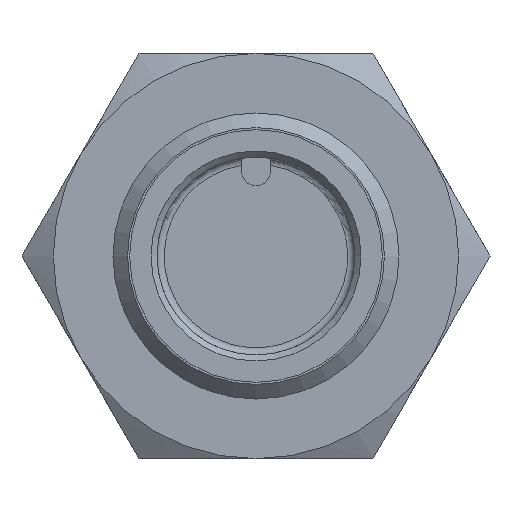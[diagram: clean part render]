
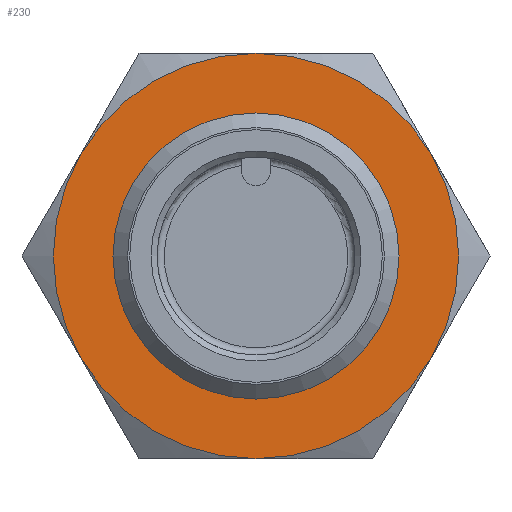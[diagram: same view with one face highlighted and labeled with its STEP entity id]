
A CAD part, left-side view. The second image highlights one B-rep face of the part: STEP entity #230.
In plain terms, the highlighted planar face has unit normal (-1, 0, 0).
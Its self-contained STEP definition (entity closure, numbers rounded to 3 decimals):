
#230 = ADVANCED_FACE( '', ( #386, #387 ), #388, .F. );
#386 = FACE_OUTER_BOUND( '', #559, .T. );
#387 = FACE_BOUND( '', #560, .T. );
#388 = PLANE( '', #561 );
#559 = EDGE_LOOP( '', ( #890, #891, #892, #893, #894, #895 ) );
#560 = EDGE_LOOP( '', ( #896 ) );
#561 = AXIS2_PLACEMENT_3D( '', #897, #898, #899 );
#890 = ORIENTED_EDGE( '', *, *, #1073, .F. );
#891 = ORIENTED_EDGE( '', *, *, #1074, .F. );
#892 = ORIENTED_EDGE( '', *, *, #1075, .F. );
#893 = ORIENTED_EDGE( '', *, *, #1071, .F. );
#894 = ORIENTED_EDGE( '', *, *, #1069, .F. );
#895 = ORIENTED_EDGE( '', *, *, #1070, .F. );
#896 = ORIENTED_EDGE( '', *, *, #1076, .T. );
#897 = CARTESIAN_POINT( '', ( 0., 0., 0. ) );
#898 = DIRECTION( '', ( 1., 0., 0. ) );
#899 = DIRECTION( '', ( 0., 0., -1. ) );
#1069 = EDGE_CURVE( '', #1198, #1216, #1232, .T. );
#1070 = EDGE_CURVE( '', #1207, #1198, #1233, .T. );
#1071 = EDGE_CURVE( '', #1216, #1234, #1235, .T. );
#1073 = EDGE_CURVE( '', #1237, #1207, #1238, .T. );
#1074 = EDGE_CURVE( '', #1239, #1237, #1240, .T. );
#1075 = EDGE_CURVE( '', #1234, #1239, #1241, .T. );
#1076 = EDGE_CURVE( '', #1242, #1242, #1243, .T. );
#1198 = VERTEX_POINT( '', #1669 );
#1207 = VERTEX_POINT( '', #1701 );
#1216 = VERTEX_POINT( '', #1735 );
#1232 = CIRCLE( '', #1775, 8.5 );
#1233 = CIRCLE( '', #1776, 8.5 );
#1234 = VERTEX_POINT( '', #1777 );
#1235 = CIRCLE( '', #1778, 8.5 );
#1237 = VERTEX_POINT( '', #1787 );
#1238 = CIRCLE( '', #1788, 8.5 );
#1239 = VERTEX_POINT( '', #1789 );
#1240 = CIRCLE( '', #1790, 8.5 );
#1241 = CIRCLE( '', #1791, 8.5 );
#1242 = VERTEX_POINT( '', #1792 );
#1243 = CIRCLE( '', #1793, 6. );
#1669 = CARTESIAN_POINT( '', ( 0., 0., 8.5 ) );
#1701 = CARTESIAN_POINT( '', ( 0., 7.361, 4.25 ) );
#1735 = CARTESIAN_POINT( '', ( 0., -7.361, 4.25 ) );
#1775 = AXIS2_PLACEMENT_3D( '', #1987, #1988, #1989 );
#1776 = AXIS2_PLACEMENT_3D( '', #1990, #1991, #1992 );
#1777 = CARTESIAN_POINT( '', ( 0., -7.361, -4.25 ) );
#1778 = AXIS2_PLACEMENT_3D( '', #1993, #1994, #1995 );
#1787 = CARTESIAN_POINT( '', ( 0., 7.361, -4.25 ) );
#1788 = AXIS2_PLACEMENT_3D( '', #1996, #1997, #1998 );
#1789 = CARTESIAN_POINT( '', ( 0., 0., -8.5 ) );
#1790 = AXIS2_PLACEMENT_3D( '', #1999, #2000, #2001 );
#1791 = AXIS2_PLACEMENT_3D( '', #2002, #2003, #2004 );
#1792 = CARTESIAN_POINT( '', ( 0., 0., -6. ) );
#1793 = AXIS2_PLACEMENT_3D( '', #2005, #2006, #2007 );
#1987 = CARTESIAN_POINT( '', ( 0., 0., 0. ) );
#1988 = DIRECTION( '', ( 1., 0., 0. ) );
#1989 = DIRECTION( '', ( 0., 0., -1. ) );
#1990 = CARTESIAN_POINT( '', ( 0., 0., 0. ) );
#1991 = DIRECTION( '', ( 1., 0., 0. ) );
#1992 = DIRECTION( '', ( 0., 0., -1. ) );
#1993 = CARTESIAN_POINT( '', ( 0., 0., 0. ) );
#1994 = DIRECTION( '', ( 1., 0., 0. ) );
#1995 = DIRECTION( '', ( 0., 0., -1. ) );
#1996 = CARTESIAN_POINT( '', ( 0., 0., 0. ) );
#1997 = DIRECTION( '', ( 1., 0., 0. ) );
#1998 = DIRECTION( '', ( 0., 0., -1. ) );
#1999 = CARTESIAN_POINT( '', ( 0., 0., 0. ) );
#2000 = DIRECTION( '', ( 1., 0., 0. ) );
#2001 = DIRECTION( '', ( 0., 0., -1. ) );
#2002 = CARTESIAN_POINT( '', ( 0., 0., 0. ) );
#2003 = DIRECTION( '', ( 1., 0., 0. ) );
#2004 = DIRECTION( '', ( 0., 0., -1. ) );
#2005 = CARTESIAN_POINT( '', ( 0., 0., 0. ) );
#2006 = DIRECTION( '', ( 1., 0., 0. ) );
#2007 = DIRECTION( '', ( 0., 0., -1. ) );
